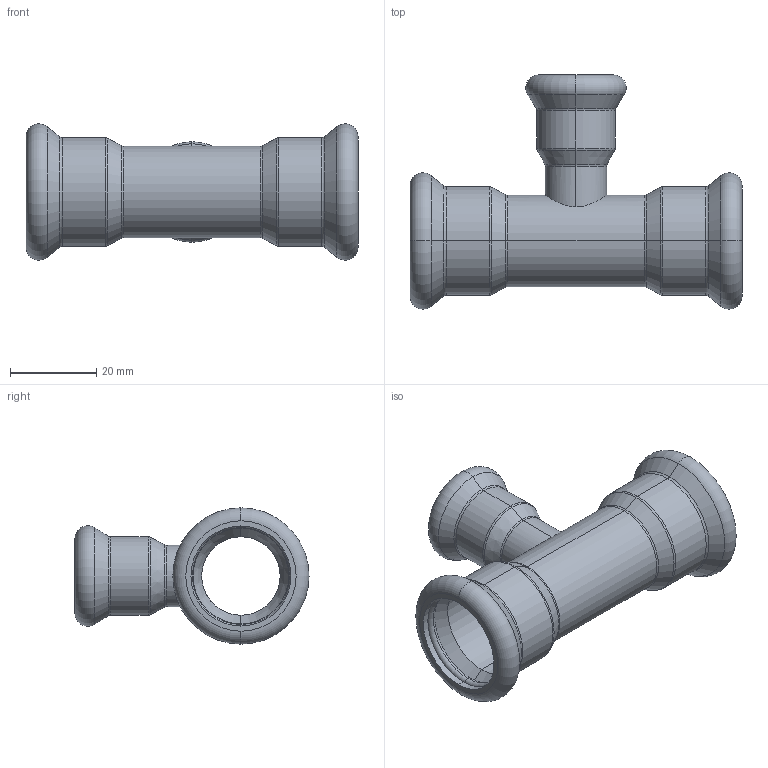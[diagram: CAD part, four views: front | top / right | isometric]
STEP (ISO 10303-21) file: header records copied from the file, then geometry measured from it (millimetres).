
FILE_DESCRIPTION (( 'STEP AP214' ), '1' );
FILE_NAME ('T22150R.STEP', '2025-08-18T00:43:54', ( '' ), ( '' ), 'SwSTEP 2.0', 'SolidWorks 2020', '' );
FILE_SCHEMA (( 'AUTOMOTIVE_DESIGN' ));
Length unit declared in the file: millimetre
Products named in the file (1): T22150R
Bounding box: 77 x 54.3 x 31.6 mm (x, y, z)
Volume: 11923.1 mm3; surface area: 16665.5 mm2
Topology: 4 solids, 4 shells, 98 faces, 198 edges, 106 vertices
Faces by surface type: torus 42, cylinder 26, cone 24, plane 6
Entity records: 3865 total; most frequent: CARTESIAN_POINT 575, DIRECTION 536, ORIENTED_EDGE 396, AXIS2_PLACEMENT_3D 243, EDGE_CURVE 198, CIRCLE 144, EDGE_LOOP 106, VERTEX_POINT 106
